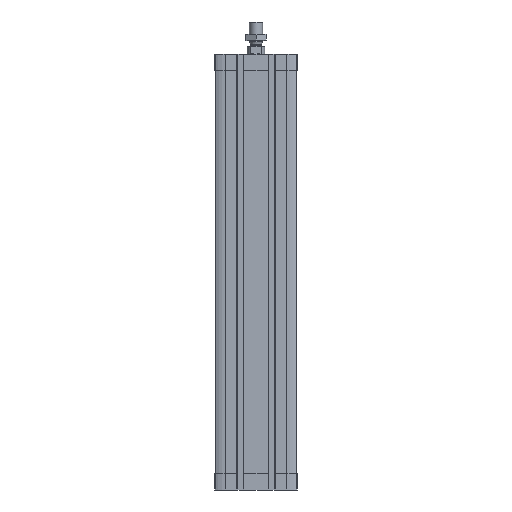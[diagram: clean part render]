
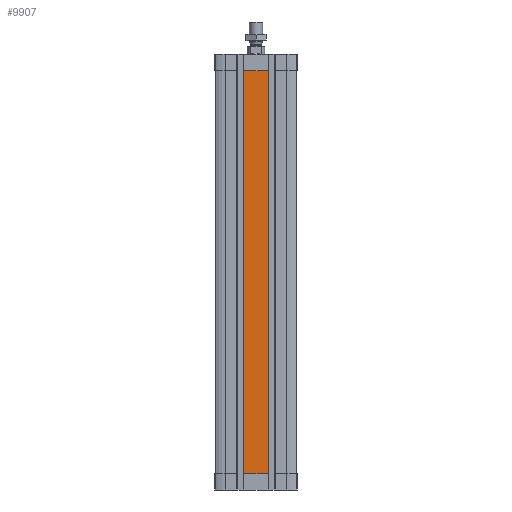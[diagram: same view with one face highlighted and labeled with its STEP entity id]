
A CAD part, front view. The second image highlights one B-rep face of the part: STEP entity #9907.
In plain terms, the highlighted planar face has unit normal (0, -1, 0).
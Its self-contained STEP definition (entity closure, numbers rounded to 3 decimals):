
#833 = CARTESIAN_POINT ( 'NONE',  ( -11.4, -37.5, -384. ) ) ;
#2169 = EDGE_CURVE ( 'NONE', #2868, #15867, #11218, .T. ) ;
#2868 = VERTEX_POINT ( 'NONE', #833 ) ;
#2898 = CARTESIAN_POINT ( 'NONE',  ( 11.4, -37.5, -15. ) ) ;
#3157 = CARTESIAN_POINT ( 'NONE',  ( 11.4, -37.5, -384. ) ) ;
#4658 = AXIS2_PLACEMENT_3D ( 'NONE', #13833, #13611, #13577 ) ;
#4676 = CARTESIAN_POINT ( 'NONE',  ( -11.4, -37.5, -15. ) ) ;
#4705 = DIRECTION ( 'NONE',  ( 0., 0., 1. ) ) ;
#5054 = CARTESIAN_POINT ( 'NONE',  ( 11.4, -37.5, -384. ) ) ;
#5099 = VERTEX_POINT ( 'NONE', #4676 ) ;
#5224 = DIRECTION ( 'NONE',  ( 1., 0., 0. ) ) ;
#5764 = CARTESIAN_POINT ( 'NONE',  ( -11.4, -37.5, -384. ) ) ;
#7271 = DIRECTION ( 'NONE',  ( -1., 0., 0. ) ) ;
#7373 = CARTESIAN_POINT ( 'NONE',  ( 0., -37.5, -15. ) ) ;
#7582 = EDGE_LOOP ( 'NONE', ( #13625, #9536, #11274, #13255 ) ) ;
#8739 = EDGE_CURVE ( 'NONE', #15867, #12284, #13353, .T. ) ;
#8871 = VECTOR ( 'NONE', #7271, 1000. ) ;
#8944 = LINE ( 'NONE', #7373, #8871 ) ;
#9150 = EDGE_CURVE ( 'NONE', #5099, #2868, #12367, .T. ) ;
#9536 = ORIENTED_EDGE ( 'NONE', *, *, #8739, .T. ) ;
#9907 = ADVANCED_FACE ( 'NONE', ( #10705 ), #13646, .T. ) ;
#10588 = EDGE_CURVE ( 'NONE', #12284, #5099, #8944, .T. ) ;
#10705 = FACE_OUTER_BOUND ( 'NONE', #7582, .T. ) ;
#10833 = VECTOR ( 'NONE', #5224, 1000. ) ;
#11218 = LINE ( 'NONE', #5764, #10833 ) ;
#11274 = ORIENTED_EDGE ( 'NONE', *, *, #10588, .T. ) ;
#12284 = VERTEX_POINT ( 'NONE', #2898 ) ;
#12354 = VECTOR ( 'NONE', #12698, 1000. ) ;
#12367 = LINE ( 'NONE', #12443, #12354 ) ;
#12443 = CARTESIAN_POINT ( 'NONE',  ( -11.4, -37.5, -384. ) ) ;
#12698 = DIRECTION ( 'NONE',  ( 0., 0., -1. ) ) ;
#13255 = ORIENTED_EDGE ( 'NONE', *, *, #9150, .T. ) ;
#13341 = VECTOR ( 'NONE', #4705, 1000. ) ;
#13353 = LINE ( 'NONE', #5054, #13341 ) ;
#13577 = DIRECTION ( 'NONE',  ( 0., 0., -1. ) ) ;
#13611 = DIRECTION ( 'NONE',  ( 0., -1., 0. ) ) ;
#13625 = ORIENTED_EDGE ( 'NONE', *, *, #2169, .T. ) ;
#13646 = PLANE ( 'NONE',  #4658 ) ;
#13833 = CARTESIAN_POINT ( 'NONE',  ( -11.4, -37.5, -384. ) ) ;
#15867 = VERTEX_POINT ( 'NONE', #3157 ) ;
